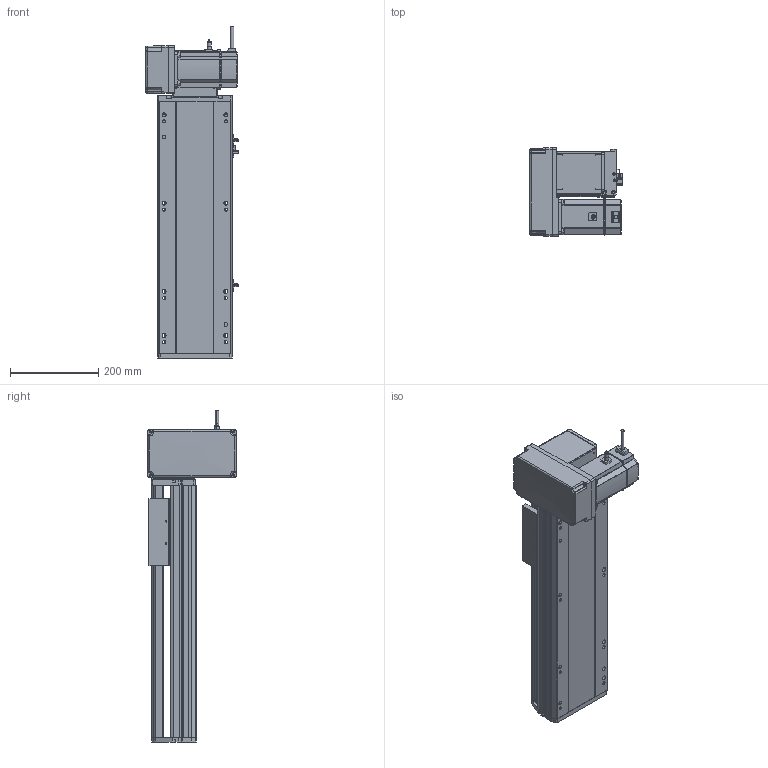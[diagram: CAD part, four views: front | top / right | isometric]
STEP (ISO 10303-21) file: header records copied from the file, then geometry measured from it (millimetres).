
FILE_DESCRIPTION (( 'STEP AP214' ), '1' );
FILE_NAME ('RTB17S-XX-300-LM-M75-C4.STEP', '2025-12-12T00:34:13', ( '' ), ( '' ), 'SwSTEP 2.0', 'SolidWorks 2018', '' );
FILE_SCHEMA (( 'AUTOMOTIVE_DESIGN' ));
Length unit declared in the file: millimetre
Products named in the file (15): RTB17S-L-004-賑釱^RTB17S-賑釱_RTB17S-XX-XX-LM-M75-C4; RTB17S-L-001-耜醱啣^RTB17S-XX-XX-LM-M75-C4; EE672^RTB17S-XX-XX-LM-M75-C4; RTB17-R-011菁釱^RTB17S-XX-XX-LM-M75-C4; RTB17S-XX-300-LM-M75-C4; RTB22S-GY-008-M75--萇儂啣^RTB17S-LM-々湍釱蚾饜-750W_RTB17S-XX-XX-LM-M75-C4; RTB17S-L-014-T20-P75--々湍釱^RTB17S-LM-々湍釱蚾饜-750W_RTB17S-XX-XX-LM-M75-C4; RTH13-BL-012覜茼え俋离^RTB17S-賑釱_RTB17S-XX-XX-LM-M75-C4; RTB22S-GY-017P^RTB17S-LM-々湍釱蚾饜-750W_RTB17S-XX-XX-LM-M75-C4; 750W萇儂^RTB17S-XX-XX-LM-M75-C4; RTB22S-GY-018P^RTB17S-LM-々湍釱蚾饜-750W_RTB17S-XX-XX-LM-M75-C4; RTB17S-LM-々湍釱蚾饜-750W^RTB17S-XX-XX-LM-M75-C4; RTB22S-GY-005P^RTB17S-LM-々湍釱蚾饜-750W_RTB17S-XX-XX-LM-M75-C4; RTB17S-賑釱^RTB17S-XX-XX-LM-M75-C4; RTB17S-L-007奻裔^RTB17S-XX-XX-LM-M75-C4
Assembly tree (17 placements, depth 3):
  RTB17S-XX-300-LM-M75-C4
    RTB17-R-011菁釱^RTB17S-XX-XX-LM-M75-C4
    EE672^RTB17S-XX-XX-LM-M75-C4  x3
    RTB17S-L-001-耜醱啣^RTB17S-XX-XX-LM-M75-C4
    RTB17S-賑釱^RTB17S-XX-XX-LM-M75-C4
      RTB17S-L-004-賑釱^RTB17S-賑釱_RTB17S-XX-XX-LM-M75-C4
      RTH13-BL-012覜茼え俋离^RTB17S-賑釱_RTB17S-XX-XX-LM-M75-C4
    RTB17S-L-007奻裔^RTB17S-XX-XX-LM-M75-C4
    750W萇儂^RTB17S-XX-XX-LM-M75-C4
    RTB17S-LM-々湍釱蚾饜-750W^RTB17S-XX-XX-LM-M75-C4
      RTB17S-L-014-T20-P75--々湍釱^RTB17S-LM-々湍釱蚾饜-750W_RTB17S-XX-XX-LM-M75-C4
      RTB22S-GY-005P^RTB17S-LM-々湍釱蚾饜-750W_RTB17S-XX-XX-LM-M75-C4
      RTB22S-GY-017P^RTB17S-LM-々湍釱蚾饜-750W_RTB17S-XX-XX-LM-M75-C4  x2
      RTB22S-GY-008-M75--萇儂啣^RTB17S-LM-々湍釱蚾饜-750W_RTB17S-XX-XX-LM-M75-C4
      RTB22S-GY-018P^RTB17S-LM-々湍釱蚾饜-750W_RTB17S-XX-XX-LM-M75-C4
Bounding box: 210.4 x 200 x 752.2 mm (x, y, z)
Volume: 7822706.8 mm3; surface area: 1211987.9 mm2
Topology: 17 solids, 17 shells, 2041 faces, 5620 edges, 3626 vertices
Faces by surface type: plane 964, cylinder 661, bspline 294, cone 110, sphere 8, torus 4
Entity records: 55798 total; most frequent: CARTESIAN_POINT 16284, ORIENTED_EDGE 8084, DIRECTION 7592, EDGE_CURVE 4042, AXIS2_PLACEMENT_3D 2646, VERTEX_POINT 2630, LINE 2300, VECTOR 2300
